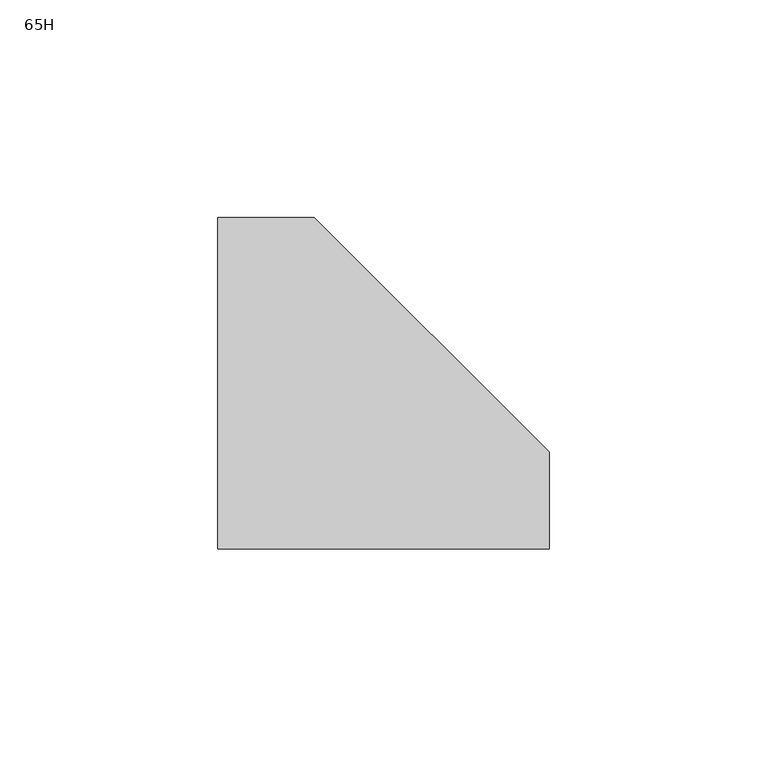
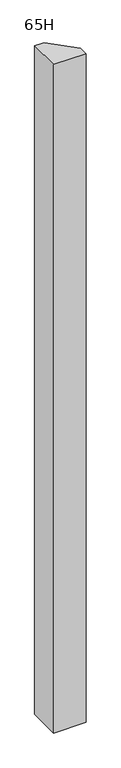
"""IFC4 building model written with IfcOpenShell, lengths in millimetres: furniture geometry, Steelcase - Montage - Junction - Y - Same-Height : 65H."""

from ifc_helpers import new_model, si_unit, frame, origin, place, context, project, spatial, polyline, outline, extrude, source, transform, mapped, element, save


def furniture_65h_5714649a(model_context):
    return source(origin(), model_context, "Body", "SweptSolid", [
        extrude(outline(polyline([(457.2, -38.1000015), (457.2, 38.1000015), (479.424997, 38.1000015), (533.4, -15.8750015), (533.4, -38.1000015), (457.2, -38.1000015)])), frame((0.0, 0.0, 3.9624), z_axis=(0.0, 0.0, 1.0), x_axis=(1.0, 0.0, 0.0)), (0.0, 0.0, 1.0), 1656.5626),
    ])


if __name__ == "__main__":
    model = new_model("IFC4")
    model_context = context("Model", 3, world=origin())
    ifc_project = project(units=[si_unit("LENGTHUNIT", "METRE", prefix="MILLI")], contexts=[model_context])
    site = spatial("IfcSite", under=ifc_project)
    building = spatial("IfcBuilding", under=site)
    placement = place(None, origin())
    furniture_65h_shape = furniture_65h_5714649a(model_context)
    element("IfcFurniture", 1, ObjectType="Steelcase - Montage - Junction - Y - Same-Height : 65H", at=placement, inside=building, context=model_context, shape_type="MappedRepresentation", body=[
        mapped(furniture_65h_shape, transform((0.0, 0.0, 0.0), x_axis=(1.0, 0.0, 0.0), y_axis=(0.0, 1.0, 0.0), z_axis=(0.0, 0.0, 1.0))),
    ])
    save(model, "model.ifc")
